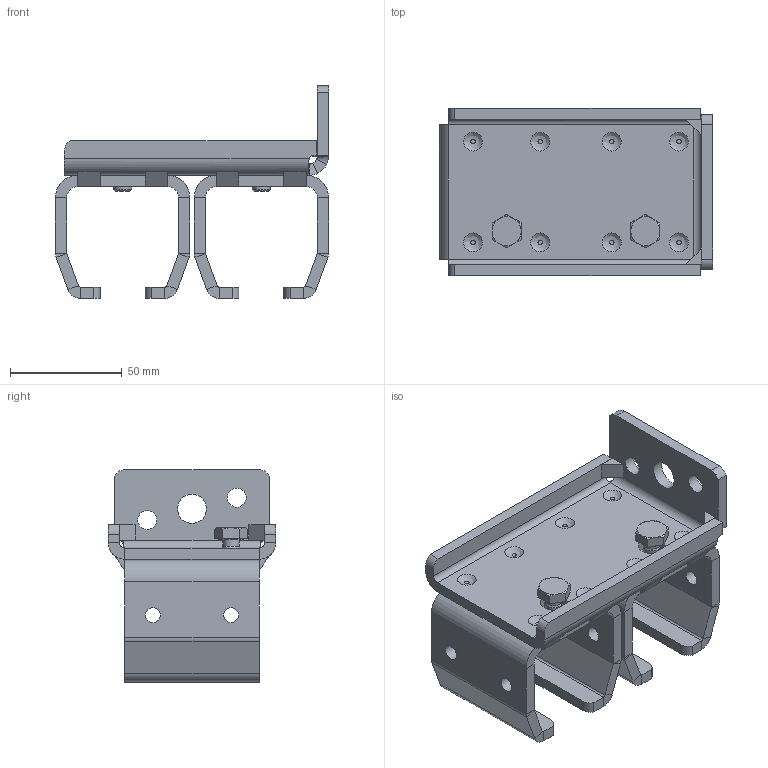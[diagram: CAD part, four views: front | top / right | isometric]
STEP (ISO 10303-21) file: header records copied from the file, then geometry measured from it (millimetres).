
FILE_DESCRIPTION(/* description */ ('Doppelte Wandbefestigung Nr.2'),/* implementation_level */ '2;1');
FILE_NAME(/* name */ 'Q:\sge-ma\Produktmanagement-STB\STB\Workspace\stp\010333015.stp',/* time_stamp */ '2015-03-10T12:39:50+01:00',/* author */ ('avschreier'),/* organization */ (''),/* preprocessor_version */ 'ST-DEVELOPER v15.6',/* originating_system */ 'Autodesk Inventor 2015',/* authorisation */ '');
FILE_SCHEMA (('CONFIG_CONTROL_DESIGN'));
Length unit declared in the file: millimetre
Products named in the file (5): 010333015_Schweißnähte; 337000262; 335140020; DIN_EN_ISO_4017-M8x16_en; 010333015
Bounding box: 122 x 75 x 95 mm (x, y, z)
Volume: 166884.1 mm3; surface area: 78303.6 mm2
Topology: 15 solids, 15 shells, 315 faces, 684 edges, 419 vertices
Faces by surface type: plane 198, cylinder 77, bspline 24, cone 16
Full cylindrical faces by diameter (mm): 6.647 x6, 6.8 x6, 7.323 x2, 8 x2, 8.5 x2, 11.4 x2, 12 x2, 13 x1
Entity records: 7942 total; most frequent: CARTESIAN_POINT 2903, DIRECTION 1035, ORIENTED_EDGE 964, EDGE_CURVE 482, AXIS2_PLACEMENT_3D 382, VERTEX_POINT 312, EDGE_LOOP 286, LINE 271
